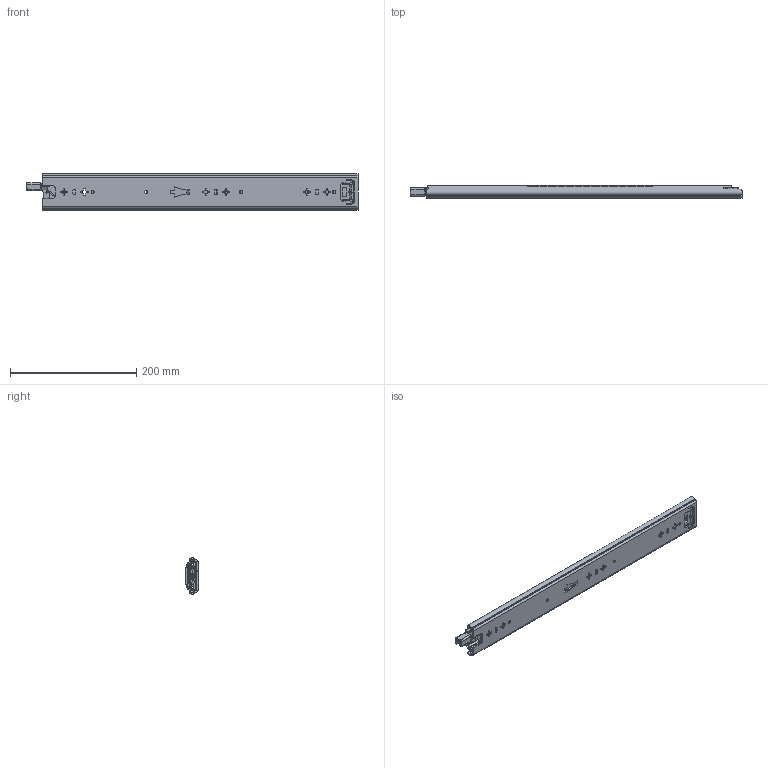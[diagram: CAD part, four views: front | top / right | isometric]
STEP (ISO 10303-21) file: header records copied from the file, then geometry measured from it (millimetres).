
FILE_DESCRIPTION((''),'2;1');
FILE_NAME('KP-57-01ZUZHUANGTU-20YOU_ASM','2023-04-03T',('jishu015'),(''),'PRO/ENGINEER BY PARAMETRIC TECHNOLOGY CORPORATION, 2010280','PRO/ENGINEER BY PARAMETRIC TECHNOLOGY CORPORATION, 2010280','');
FILE_SCHEMA(('CONFIG_CONTROL_DESIGN'));
Length unit declared in the file: millimetre
Products named in the file (21): KP-57-01WEIKE-20_; 1057WEIJIAO_________________; WAIKE________________ASM; KP-57-01ZHONGGUI-26____; ZHONGGUIPEIJIAN-20_; ZHONGGUISUOKOU-122; KP-57-01ZHONGGUI-26_____ASM; 1057XIAOZHUJIA_________________; 1057-5-6GANZHU_________________; 1057XIAOZHUJIA-14GE26_____ASM; KP-57-01NEIGUI-22__; PJ-57-08_______________; DIAOPIAN-11_______________; 50XINSUOKOU-1_______________; 1053-3SBANJI122_____________; JIAO11_____________; KP-57-01NEIGUI-22___ASM; 1053ZHUTIAO-275____; 53-5-6GANZHU1_; 1053ZHUTIAO-175MM11_ASM; KP-57-01ZUZHUANGTU-20YOU_ASM
Assembly tree (59 placements, depth 3):
  KP-57-01ZUZHUANGTU-20YOU_ASM
    WAIKE________________ASM
      KP-57-01WEIKE-20_
      1057WEIJIAO_________________
    KP-57-01ZHONGGUI-26_____ASM
      KP-57-01ZHONGGUI-26____
      ZHONGGUIPEIJIAN-20_
      ZHONGGUISUOKOU-122
    1057XIAOZHUJIA-14GE26_____ASM
      1057XIAOZHUJIA_________________
      1057-5-6GANZHU_________________  x32
    KP-57-01NEIGUI-22___ASM
      KP-57-01NEIGUI-22__
      PJ-57-08_______________
      DIAOPIAN-11_______________
      50XINSUOKOU-1_______________
      1053-3SBANJI122_____________
      JIAO11_____________
    1053ZHUTIAO-175MM11_ASM  x2
      1053ZHUTIAO-275____
      53-5-6GANZHU1_
Bounding box: 525.42 x 19 x 57.67 mm (x, y, z)
Volume: 218090.7 mm3; surface area: 236459.1 mm2
Topology: 63 solids, 63 shells, 1874 faces, 5378 edges, 3383 vertices
Faces by surface type: plane 800, cylinder 778, sphere 107, bspline 87, cone 60, extrusion 23, torus 19
Entity records: 62041 total; most frequent: CARTESIAN_POINT 15630, ORIENTED_EDGE 9836, DIRECTION 9510, EDGE_CURVE 4918, AXIS2_PLACEMENT_3D 3267, VERTEX_POINT 3179, VECTOR 2976, LINE 2953
